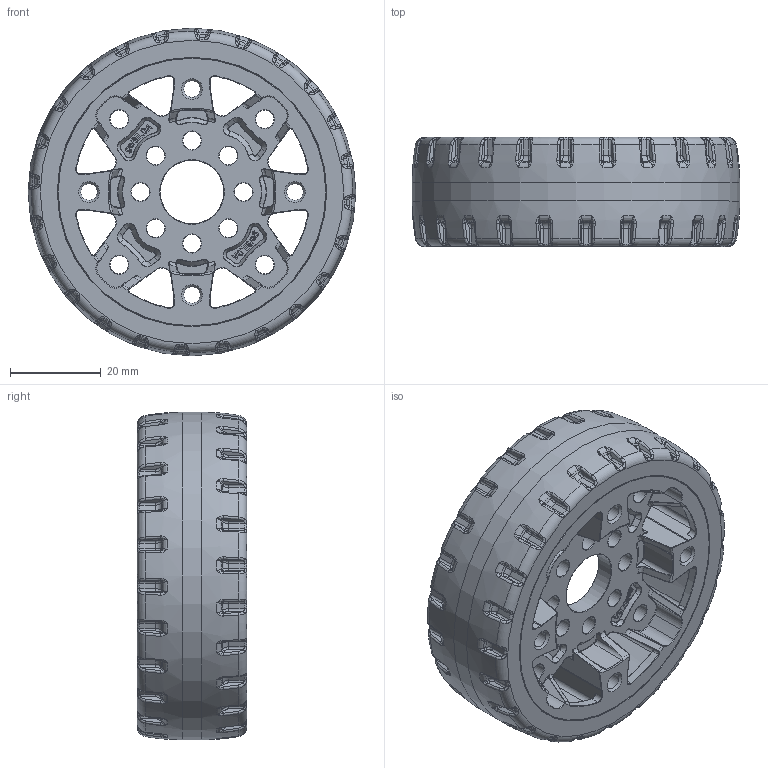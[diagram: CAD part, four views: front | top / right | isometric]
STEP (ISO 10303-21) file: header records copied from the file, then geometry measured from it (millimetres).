
FILE_DESCRIPTION(/* description */ (''),/* implementation_level */ '2;1');
FILE_NAME(/* name */ '3626-0014-0072.step',/* time_stamp */ '2025-11-13T11:38:20-06:00',/* author */ (''),/* organization */ (''),/* preprocessor_version */ 'ST-DEVELOPER v20.1',/* originating_system */ 'Autodesk Translation Framework v14.21.0.0',/* authorisation */ '');
FILE_SCHEMA (('AUTOMOTIVE_DESIGN { 1 0 10303 214 3 1 1 }'));
Products named in the file (3): [O] 3626-0014-0072; Core; Tire
Assembly tree (2 placements, depth 2):
  [O] 3626-0014-0072
    Core
    Tire
Bounding box: 72 x 24 x 72 mm (x, y, z)
Volume: 47371.5 mm3; surface area: 34150.7 mm2
Topology: 2 solids, 2 shells, 3891 faces, 9559 edges, 5567 vertices
Faces by surface type: bspline 1958, plane 678, torus 549, cylinder 546, cone 160
Full cylindrical faces by diameter (mm): 3.6 x4, 4 x12, 14 x1, 59 x4, 61 x4, 72 x1
Entity records: 164447 total; most frequent: CARTESIAN_POINT 81187, ORIENTED_EDGE 18800, DIRECTION 15484, EDGE_CURVE 9400, AXIS2_PLACEMENT_3D 6733, VERTEX_POINT 5567, CIRCLE 4102, EDGE_LOOP 3997
